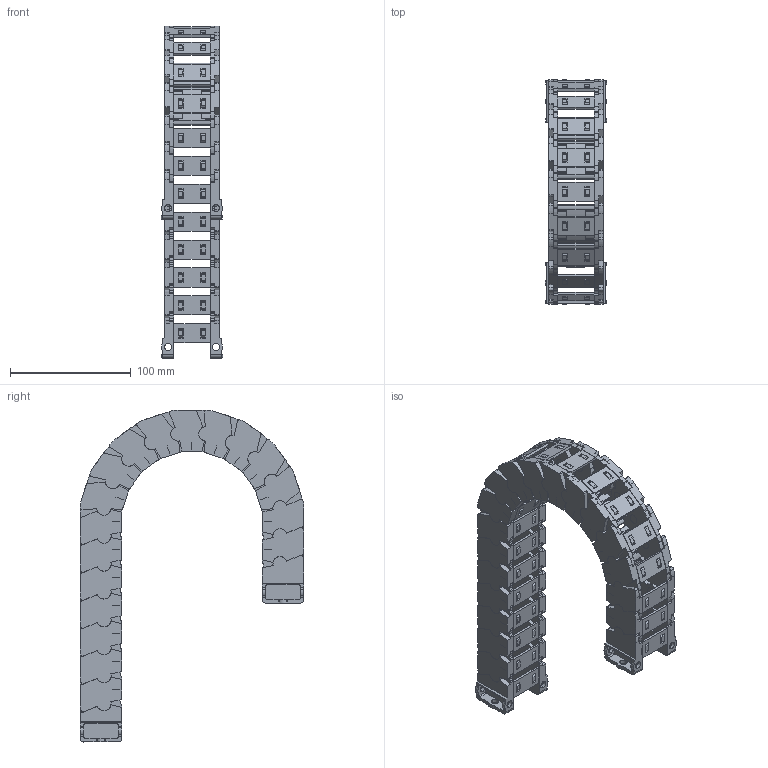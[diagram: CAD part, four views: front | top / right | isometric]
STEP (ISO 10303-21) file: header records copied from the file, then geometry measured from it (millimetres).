
FILE_DESCRIPTION((''),'2;1');
FILE_NAME('JY-25X30-R75_ASM','2023-02-08T15:11:07',('admin'),(''),'CREO PARAMETRIC BY PTC INC, 2021164','CREO PARAMETRIC BY PTC INC, 2021164','');
FILE_SCHEMA(('CONFIG_CONTROL_DESIGN','GEOMETRIC_VALIDATION_PROPERTIES_MIM'));
Length unit declared in the file: millimetre
Products named in the file (11): 25XL-L; 25-35XL-YP; 25XL-R; ASM0001_ASM; 25-LTT-A-L; 25-LTT-A-R; 25XL-LTT-A_ASM; 25-LTT-B-L; 25-LTT-B-R; 25XL-LTT-B_ASM; JY-25X30-R75_ASM
Assembly tree (32 placements, depth 3):
  JY-25X30-R75_ASM
    ASM0001_ASM  x18
      25XL-L
      25-35XL-YP
      25XL-R
    25XL-LTT-A_ASM
      25-LTT-A-L
      25-35XL-YP  x2
      25-LTT-A-R
    25XL-LTT-B_ASM
      25-LTT-B-L
      25-35XL-YP  x2
      25-LTT-B-R
Bounding box: 50.67 x 185.54 x 275.02 mm (x, y, z)
Volume: 281571.4 mm3; surface area: 213664.7 mm2
Topology: 80 solids, 98 shells, 4162 faces, 12432 edges, 8410 vertices
Faces by surface type: plane 3064, cylinder 1062, cone 36
Entity records: 24059 total; most frequent: CARTESIAN_POINT 3120, DIRECTION 3015, ORIENTED_EDGE 2962, EDGE_CURVE 1483, PRESENTATION_STYLE_ASSIGNMENT 1413, STYLED_ITEM 1381, VECTOR 1053, LINE 1053
